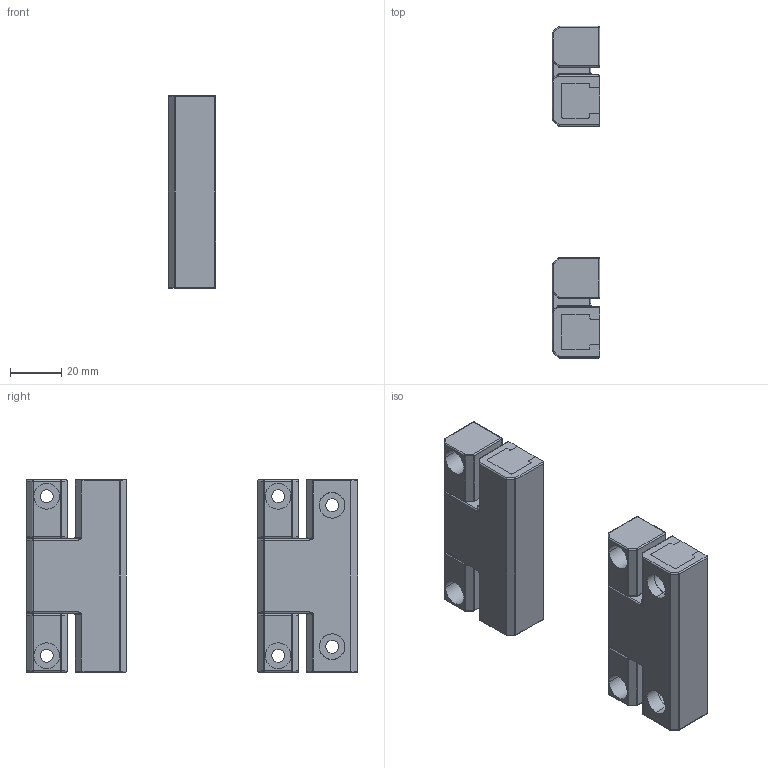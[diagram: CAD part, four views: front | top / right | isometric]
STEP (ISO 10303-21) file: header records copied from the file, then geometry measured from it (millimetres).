
FILE_DESCRIPTION (( 'STEP AP214' ), '1' );
FILE_NAME ('B20 KH-77(H).STEP', '2012-03-20T03:07:34', ( '' ), ( '' ), 'SwSTEP 2.0', 'SolidWorks 2012', '' );
FILE_SCHEMA (( 'AUTOMOTIVE_DESIGN' ));
Length unit declared in the file: millimetre
Products named in the file (8): HINGE_1; PLUG_1; HINGE A_1; HINGE B_1; SHAFT_1; B20 KH-77(H)
Assembly tree (12 placements, depth 2):
  B20 KH-77(H)
    SHAFT_1  x4
    HINGE B_1  x2
    PLUG_1
    HINGE A_1  x2
    HINGE_1
    PLUG_1
    HINGE_1
Bounding box: 18.5 x 129 x 75 mm (x, y, z)
Volume: 87807.6 mm3; surface area: 45031.4 mm2
Topology: 12 solids, 12 shells, 522 faces, 1206 edges, 672 vertices
Faces by surface type: cylinder 236, plane 150, bspline 92, sphere 24, torus 12, cone 8
Entity records: 11866 total; most frequent: CARTESIAN_POINT 3435, ORIENTED_EDGE 1688, DIRECTION 1676, EDGE_CURVE 844, AXIS2_PLACEMENT_3D 609, VERTEX_POINT 496, LINE 458, VECTOR 458
